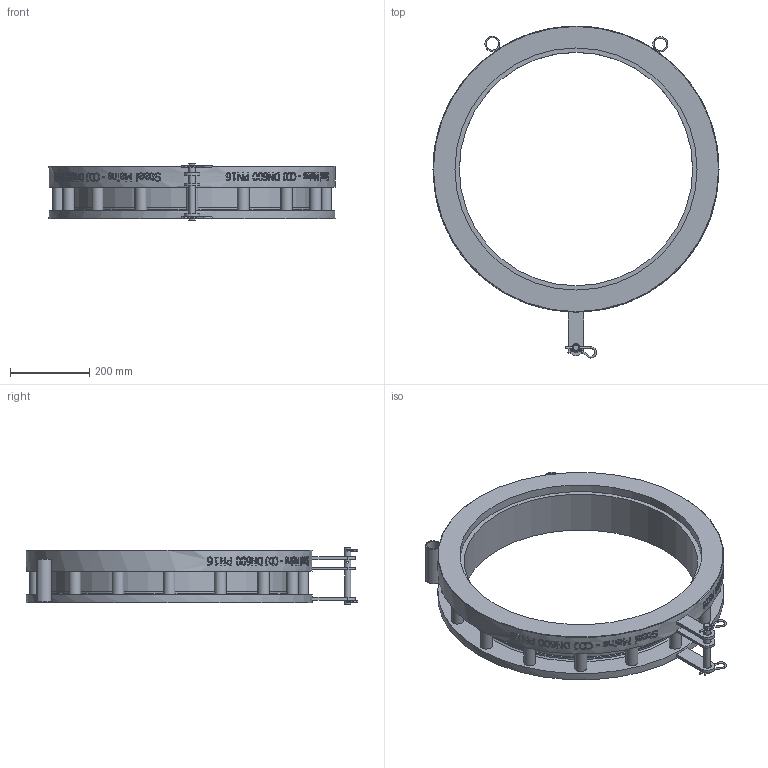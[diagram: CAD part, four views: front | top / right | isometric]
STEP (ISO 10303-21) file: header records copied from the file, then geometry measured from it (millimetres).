
FILE_DESCRIPTION(/* description */ ('DN600 CLASS PN16 DISMANTLING JOINT - MARKETING MODEL'),/* implementation_level */ '2;1');
FILE_NAME(/* name */ 'C:\Vault\Designs\Somerton\196\196-16 Models\Marketing Files\Steel Mains - CDJ DN600 PN16 - (196-16T rev E).stp',/* time_stamp */ '2024-04-24T16:41:31+10:00',/* author */ ('Sam.Cavallaro'),/* organization */ (''),/* preprocessor_version */ 'ST-DEVELOPER v18.1',/* originating_system */ 'Autodesk Inventor 2021',/* authorisation */ '');
FILE_SCHEMA (('AUTOMOTIVE_DESIGN { 1 0 10303 214 3 1 1 }'));
Length unit declared in the file: millimetre
Products named in the file (1): SPS_ENG-072310
Bounding box: 723 x 839 x 146 mm (x, y, z)
Volume: 11208045.1 mm3; surface area: 1193589.1 mm2
Topology: 5 solids, 5 shells, 820 faces, 2221 edges, 1482 vertices
Faces by surface type: bspline 394, plane 299, cylinder 114, torus 8, cone 5
Full cylindrical faces by diameter (mm): 4 x10, 5 x3, 16 x1, 20 x3, 30 x16, 31.6 x2, 38.1 x2, 590 x1, 606 x1, 610 x1, 612 x1, 723 x2
Entity records: 36030 total; most frequent: CARTESIAN_POINT 17373, ORIENTED_EDGE 4450, DIRECTION 2667, EDGE_CURVE 2225, VERTEX_POINT 1486, LINE 1013, VECTOR 1013, EDGE_LOOP 943
